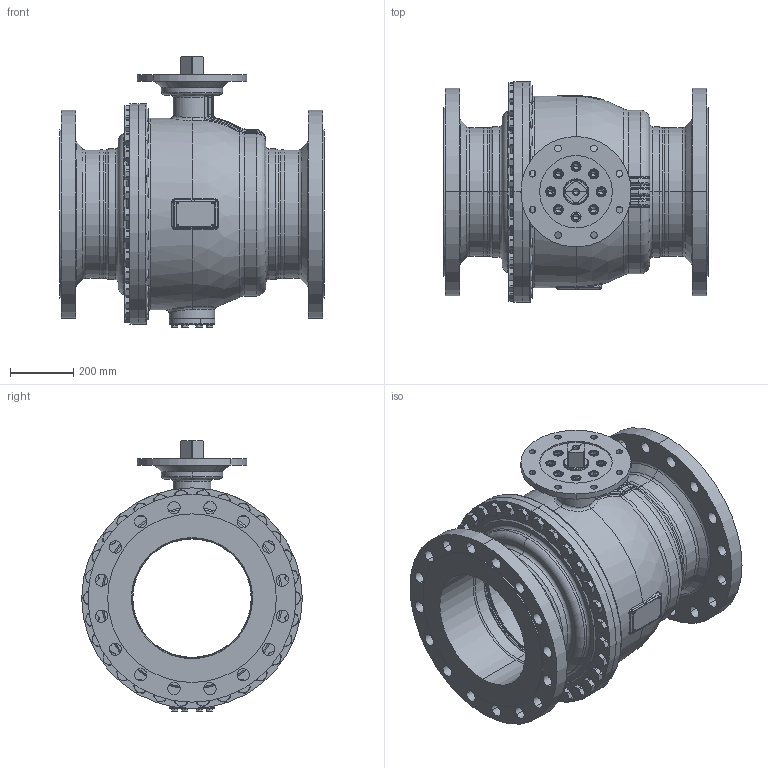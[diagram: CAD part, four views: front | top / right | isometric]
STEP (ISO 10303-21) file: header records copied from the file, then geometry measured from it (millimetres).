
FILE_DESCRIPTION((''),'2;1');
FILE_NAME('KHI-F_400_PN040-F30-4_SW0001','2026-02-05T16:22:11',('fischerkl'),('KLINGER'),'CREO PARAMETRIC BY PTC INC, 2023014','CREO PARAMETRIC BY PTC INC, 2023014','');
FILE_SCHEMA(('CONFIG_CONTROL_DESIGN'));
Products named in the file (1): KHI-F_400_PN040-F30-4_SW0001
Bounding box: 838 x 700 x 858.3 mm (x, y, z)
Volume: 65941228.6 mm3; surface area: 7435864.5 mm2
Topology: 1 solids, 4 shells, 3540 faces, 8918 edges, 5569 vertices
Faces by surface type: plane 1754, cylinder 845, cone 504, torus 307, bspline 99, sphere 31
Entity records: 151764 total; most frequent: CARTESIAN_POINT 67517, ORIENTED_EDGE 17784, DIRECTION 17449, EDGE_CURVE 8892, AXIS2_PLACEMENT_3D 6699, VERTEX_POINT 5569, VECTOR 4051, LINE 4051
